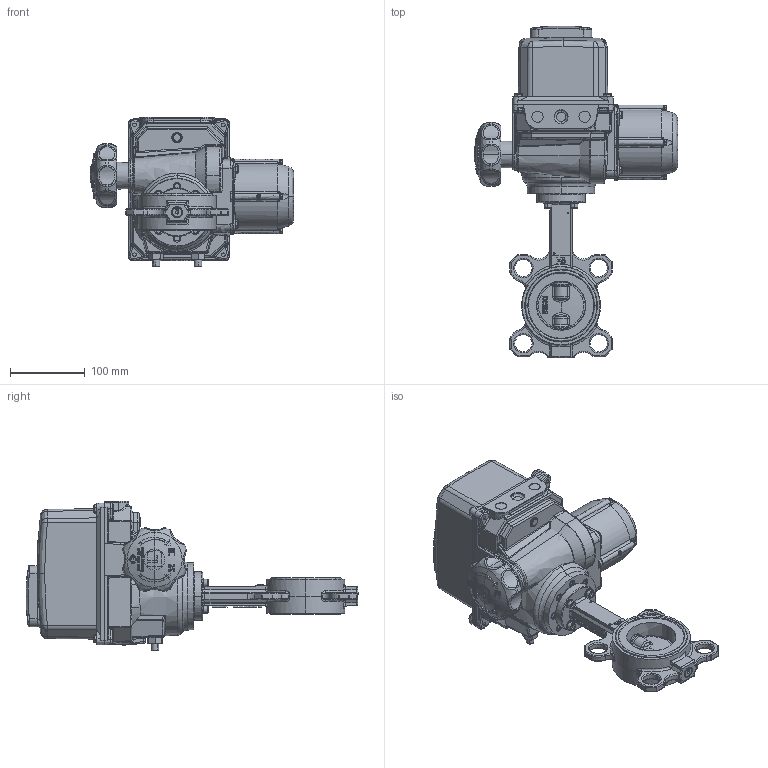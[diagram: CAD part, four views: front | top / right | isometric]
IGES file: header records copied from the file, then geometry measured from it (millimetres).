
Start section: SolidWorks IGES file using NURBS representation for surfaces
Global section: file name: H:\BE BIBLIOTHEQUE 3D\Projet_Biblio3D_2016\FSK\VPI\VPI-B04\VPI-B24 DN65.Igs; native system: SolidWorks 2014; preprocessor: SolidWorks 2014; author: a.cartier; date: 160929.165649; units: millimetre
Bounding box: 272.5 x 444.8 x 199.8 mm (x, y, z)
Volume: 4986915.2 mm3; surface area: 323516.4 mm2
Topology: 14 solids, 14 shells, 3166 faces, 8235 edges, 5059 vertices
Faces by surface type: bspline 3166
